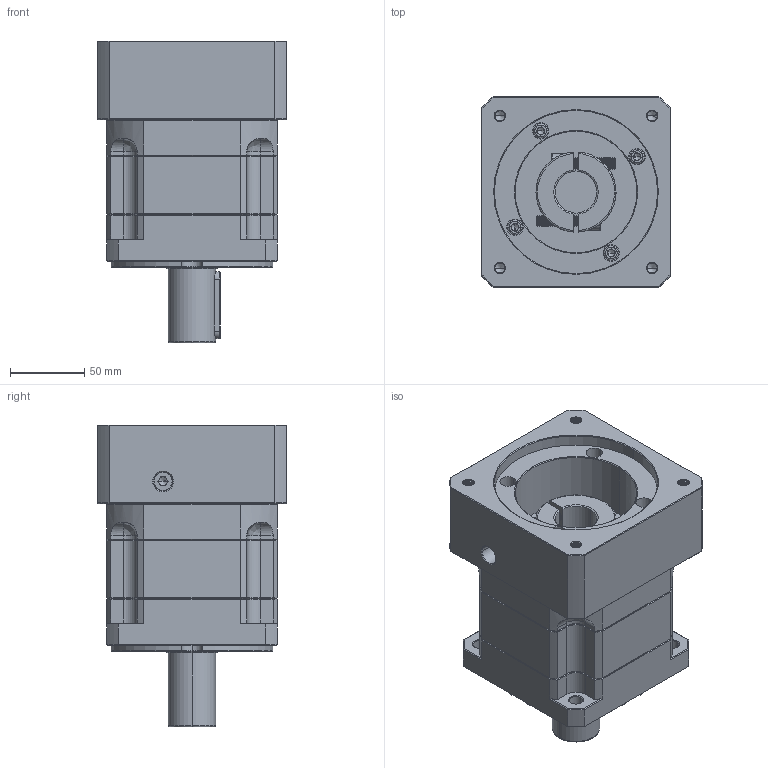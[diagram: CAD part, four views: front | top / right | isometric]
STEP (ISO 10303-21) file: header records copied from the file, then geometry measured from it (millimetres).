
FILE_DESCRIPTION (( 'STEP AP214' ), '1' );
FILE_NAME ('ZB115A-D32-L1-28-110-145-M8.step', '2023-03-02T09:00:31', ( '' ), ( 'Microsoft' ), 'SwSTEP 2.0', 'SolidWorks 2016', '' );
FILE_SCHEMA (( 'AUTOMOTIVE_DESIGN' ));
Length unit declared in the file: millimetre
Products named in the file (1): ZB115A-D32-L1-28-110-145-M8
Bounding box: 128 x 128 x 203.5 mm (x, y, z)
Volume: 1774745.8 mm3; surface area: 184662.9 mm2
Topology: 6 solids, 6 shells, 2113 faces, 5458 edges, 3439 vertices
Faces by surface type: plane 963, cylinder 439, cone 366, bspline 325, torus 20
Entity records: 113157 total; most frequent: CARTESIAN_POINT 41309, ORIENTED_EDGE 10848, DIRECTION 8897, EDGE_CURVE 5424, VERTEX_POINT 3439, LINE 3371, VECTOR 3371, AXIS2_PLACEMENT_3D 2763
